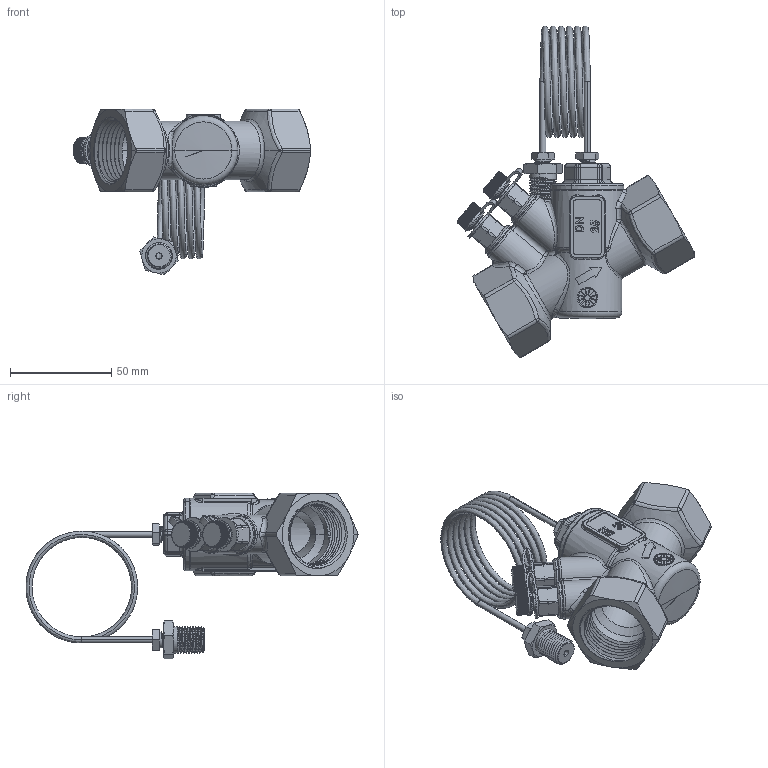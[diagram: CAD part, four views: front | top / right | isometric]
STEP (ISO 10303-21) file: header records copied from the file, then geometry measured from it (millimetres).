
FILE_DESCRIPTION (( 'STEP AP203' ), '1' );
FILE_NAME ('SDP.30 ABHouse DN25 ISO FF PTplugs.step', '2024-04-12T07:29:53', ( '' ), ( '' ), 'SwSTEP 2.0', 'SolidWorks 2023', '' );
FILE_SCHEMA (( 'CONFIG_CONTROL_DESIGN' ));
Length unit declared in the file: millimetre
Products named in the file (1): SDP.30 ABHouse DN25 ISO FF PTplugs
Bounding box: 117.72 x 164.31 x 82.12 mm (x, y, z)
Surface area: 46702.7 mm2 (no closed solid volume)
Topology: 0 solids, 38 shells, 1980 faces, 11223 edges, 8571 vertices
Faces by surface type: bspline 829, cylinder 694, plane 247, cone 124, torus 53, sphere 33
Entity records: 328773 total; most frequent: CARTESIAN_POINT 266031, ORIENTED_EDGE 15496, EDGE_CURVE 11193, B_SPLINE_CURVE_WITH_KNOTS 8995, VERTEX_POINT 8569, DIRECTION 5319, AXIS2_PLACEMENT_3D 2200, EDGE_LOOP 2054
